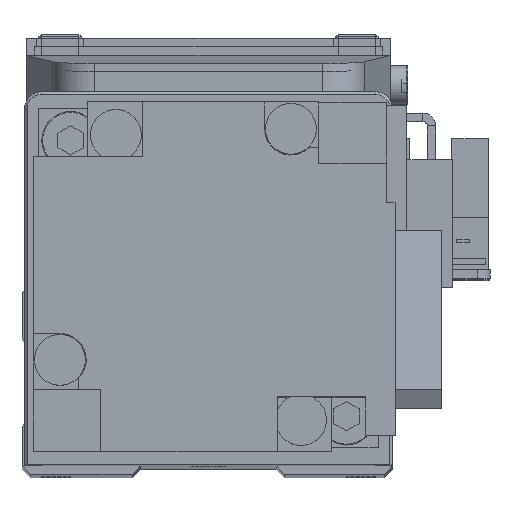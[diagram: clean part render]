
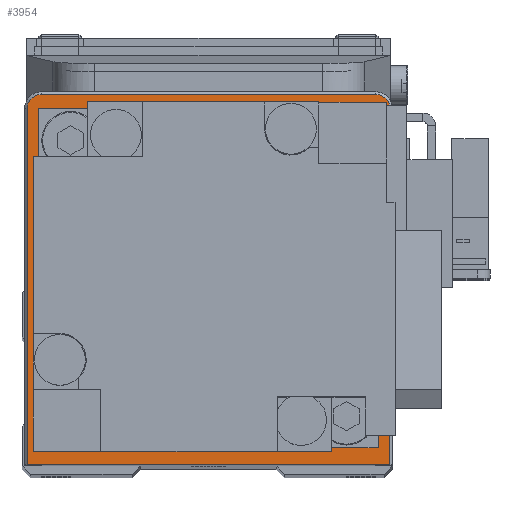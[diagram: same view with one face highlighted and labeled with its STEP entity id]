
A CAD part, top view. The second image highlights one B-rep face of the part: STEP entity #3954.
In plain terms, the highlighted planar face has unit normal (0, 0, 1).
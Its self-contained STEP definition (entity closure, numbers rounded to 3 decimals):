
#159 = VERTEX_POINT ( 'NONE', #31371 ) ;
#1970 = CARTESIAN_POINT ( 'NONE',  ( -21.7, -22., 26.5 ) ) ;
#2122 = ORIENTED_EDGE ( 'NONE', *, *, #20827, .F. ) ;
#2144 = DIRECTION ( 'NONE',  ( 0., -1., 0. ) ) ;
#2306 = LINE ( 'NONE', #7255, #21194 ) ;
#3048 = DIRECTION ( 'NONE',  ( 0., 0., 1. ) ) ;
#3365 = EDGE_CURVE ( 'NONE', #159, #16920, #7832, .T. ) ;
#3380 = DIRECTION ( 'NONE',  ( 1., 0., 0. ) ) ;
#3427 = CIRCLE ( 'NONE', #22548, 1.7 ) ;
#3513 = VERTEX_POINT ( 'NONE', #31698 ) ;
#3954 = ADVANCED_FACE ( 'NONE', ( #15932, #28948 ), #26030, .T. ) ;
#4193 = ORIENTED_EDGE ( 'NONE', *, *, #4223, .T. ) ;
#4223 = EDGE_CURVE ( 'NONE', #20629, #3513, #7347, .T. ) ;
#4604 = CARTESIAN_POINT ( 'NONE',  ( -19.7, 21.7, 26.5 ) ) ;
#5270 = ORIENTED_EDGE ( 'NONE', *, *, #27827, .T. ) ;
#5315 = VERTEX_POINT ( 'NONE', #29110 ) ;
#5785 = DIRECTION ( 'NONE',  ( 1., 0., 0. ) ) ;
#6325 = CARTESIAN_POINT ( 'NONE',  ( 21.4, 20., 26.5 ) ) ;
#6362 = ORIENTED_EDGE ( 'NONE', *, *, #31827, .T. ) ;
#7255 = CARTESIAN_POINT ( 'NONE',  ( -21.4, -22., 26.5 ) ) ;
#7347 = CIRCLE ( 'NONE', #8377, 1.7 ) ;
#7832 = CIRCLE ( 'NONE', #19347, 10. ) ;
#8377 = AXIS2_PLACEMENT_3D ( 'NONE', #27389, #16948, #19690 ) ;
#10263 = DIRECTION ( 'NONE',  ( 1., 0., 0. ) ) ;
#10500 = CARTESIAN_POINT ( 'NONE',  ( 19.7, 21.7, 26.5 ) ) ;
#10906 = CARTESIAN_POINT ( 'NONE',  ( 0., 0., 26.5 ) ) ;
#12032 = CARTESIAN_POINT ( 'NONE',  ( -19.7, 21.7, 26.5 ) ) ;
#12207 = DIRECTION ( 'NONE',  ( 0., 0., 1. ) ) ;
#12588 = CARTESIAN_POINT ( 'NONE',  ( 21.4, -22., 26.5 ) ) ;
#13349 = VECTOR ( 'NONE', #24490, 1000. ) ;
#13864 = ORIENTED_EDGE ( 'NONE', *, *, #18970, .T. ) ;
#15032 = EDGE_CURVE ( 'NONE', #19638, #5315, #27235, .T. ) ;
#15932 = FACE_OUTER_BOUND ( 'NONE', #33091, .T. ) ;
#16893 = CIRCLE ( 'NONE', #17899, 10. ) ;
#16920 = VERTEX_POINT ( 'NONE', #32306 ) ;
#16948 = DIRECTION ( 'NONE',  ( 0., 0., 1. ) ) ;
#17899 = AXIS2_PLACEMENT_3D ( 'NONE', #10906, #31943, #3380 ) ;
#18970 = EDGE_CURVE ( 'NONE', #3513, #33436, #2306, .T. ) ;
#19347 = AXIS2_PLACEMENT_3D ( 'NONE', #22486, #12207, #27813 ) ;
#19379 = VECTOR ( 'NONE', #33275, 1000. ) ;
#19638 = VERTEX_POINT ( 'NONE', #12588 ) ;
#19690 = DIRECTION ( 'NONE',  ( 1., 0., 0. ) ) ;
#20406 = VECTOR ( 'NONE', #25214, 1000. ) ;
#20549 = CARTESIAN_POINT ( 'NONE',  ( 0., 0., 26.5 ) ) ;
#20629 = VERTEX_POINT ( 'NONE', #4604 ) ;
#20827 = EDGE_CURVE ( 'NONE', #16920, #159, #16893, .T. ) ;
#21194 = VECTOR ( 'NONE', #2144, 1000. ) ;
#21710 = CARTESIAN_POINT ( 'NONE',  ( 19.7, 20., 26.5 ) ) ;
#21922 = ORIENTED_EDGE ( 'NONE', *, *, #15032, .T. ) ;
#22486 = CARTESIAN_POINT ( 'NONE',  ( 0., 0., 26.5 ) ) ;
#22548 = AXIS2_PLACEMENT_3D ( 'NONE', #21710, #3048, #5785 ) ;
#24490 = DIRECTION ( 'NONE',  ( 0., 1., 0. ) ) ;
#25214 = DIRECTION ( 'NONE',  ( -1., 0., 0. ) ) ;
#25420 = LINE ( 'NONE', #1970, #19379 ) ;
#25858 = DIRECTION ( 'NONE',  ( 0., 0., 1. ) ) ;
#26030 = PLANE ( 'NONE',  #29738 ) ;
#27235 = LINE ( 'NONE', #6325, #13349 ) ;
#27389 = CARTESIAN_POINT ( 'NONE',  ( -19.7, 20., 26.5 ) ) ;
#27813 = DIRECTION ( 'NONE',  ( 1., 0., 0. ) ) ;
#27827 = EDGE_CURVE ( 'NONE', #5315, #31915, #3427, .T. ) ;
#28948 = FACE_BOUND ( 'NONE', #31558, .T. ) ;
#29110 = CARTESIAN_POINT ( 'NONE',  ( 21.4, 20., 26.5 ) ) ;
#29738 = AXIS2_PLACEMENT_3D ( 'NONE', #20549, #25858, #10263 ) ;
#30277 = EDGE_CURVE ( 'NONE', #31915, #20629, #32732, .T. ) ;
#30354 = ORIENTED_EDGE ( 'NONE', *, *, #3365, .F. ) ;
#31371 = CARTESIAN_POINT ( 'NONE',  ( -10., 0., 26.5 ) ) ;
#31558 = EDGE_LOOP ( 'NONE', ( #30354, #2122 ) ) ;
#31698 = CARTESIAN_POINT ( 'NONE',  ( -21.4, 20., 26.5 ) ) ;
#31827 = EDGE_CURVE ( 'NONE', #33436, #19638, #25420, .T. ) ;
#31915 = VERTEX_POINT ( 'NONE', #10500 ) ;
#31943 = DIRECTION ( 'NONE',  ( 0., 0., 1. ) ) ;
#32306 = CARTESIAN_POINT ( 'NONE',  ( 10., 0., 26.5 ) ) ;
#32624 = CARTESIAN_POINT ( 'NONE',  ( -21.4, -22., 26.5 ) ) ;
#32732 = LINE ( 'NONE', #12032, #20406 ) ;
#33091 = EDGE_LOOP ( 'NONE', ( #6362, #21922, #5270, #33769, #4193, #13864 ) ) ;
#33275 = DIRECTION ( 'NONE',  ( 1., 0., 0. ) ) ;
#33436 = VERTEX_POINT ( 'NONE', #32624 ) ;
#33769 = ORIENTED_EDGE ( 'NONE', *, *, #30277, .T. ) ;
